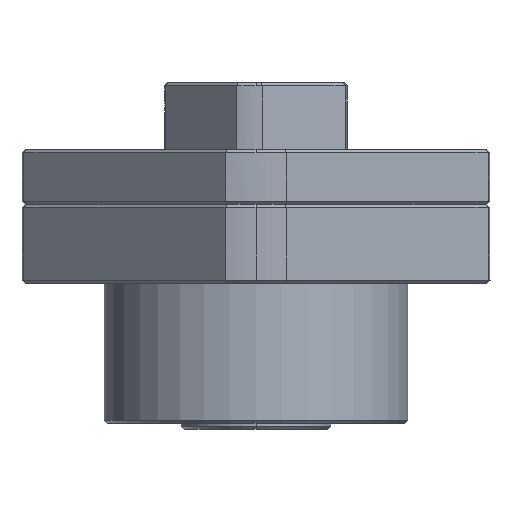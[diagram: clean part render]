
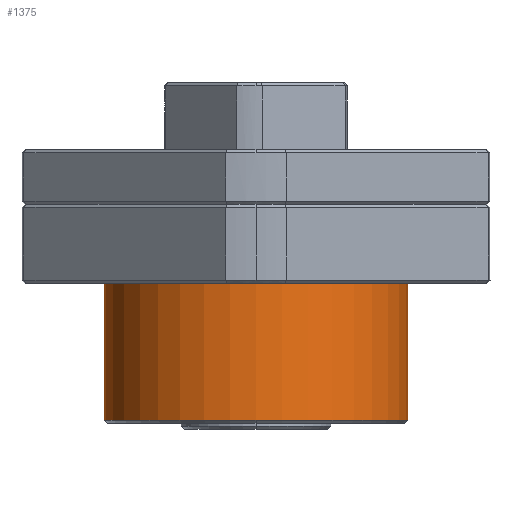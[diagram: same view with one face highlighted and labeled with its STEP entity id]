
A CAD part, left-side view. The second image highlights one B-rep face of the part: STEP entity #1375.
In plain terms, the highlighted cylindrical face has radius 25 mm (diameter 50 mm), a partial arc.
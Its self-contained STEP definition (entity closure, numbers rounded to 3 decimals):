
#280 = LINE ( 'NONE', #13053, #8993 ) ;
#723 = VERTEX_POINT ( 'NONE', #1551 ) ;
#818 = CIRCLE ( 'NONE', #5929, 25. ) ;
#1375 = ADVANCED_FACE ( 'NONE', ( #11953 ), #11579, .T. ) ;
#1551 = CARTESIAN_POINT ( 'NONE',  ( 1.686, -18.435, 5. ) ) ;
#1565 = DIRECTION ( 'NONE',  ( 0., 1., 0. ) ) ;
#1808 = LINE ( 'NONE', #5100, #2354 ) ;
#2194 = ORIENTED_EDGE ( 'NONE', *, *, #10286, .F. ) ;
#2206 = CARTESIAN_POINT ( 'NONE',  ( 1.686, 31.565, -17.5 ) ) ;
#2354 = VECTOR ( 'NONE', #10080, 1000. ) ;
#2507 = ORIENTED_EDGE ( 'NONE', *, *, #14284, .T. ) ;
#2608 = CIRCLE ( 'NONE', #3379, 25. ) ;
#2959 = CARTESIAN_POINT ( 'NONE',  ( 1.686, 6.565, -17.5 ) ) ;
#3379 = AXIS2_PLACEMENT_3D ( 'NONE', #2959, #6375, #11195 ) ;
#3801 = CARTESIAN_POINT ( 'NONE',  ( 1.686, 6.565, 5. ) ) ;
#4117 = EDGE_CURVE ( 'NONE', #8139, #5886, #13258, .T. ) ;
#4190 = EDGE_CURVE ( 'NONE', #723, #5886, #280, .T. ) ;
#5100 = CARTESIAN_POINT ( 'NONE',  ( 1.686, 31.565, 5. ) ) ;
#5101 = CARTESIAN_POINT ( 'NONE',  ( 1.686, 6.565, 5. ) ) ;
#5886 = VERTEX_POINT ( 'NONE', #10591 ) ;
#5929 = AXIS2_PLACEMENT_3D ( 'NONE', #3801, #11968, #7265 ) ;
#6375 = DIRECTION ( 'NONE',  ( 0., 0., 1. ) ) ;
#7265 = DIRECTION ( 'NONE',  ( 0., 1., 0. ) ) ;
#7390 = AXIS2_PLACEMENT_3D ( 'NONE', #5101, #7465, #1565 ) ;
#7465 = DIRECTION ( 'NONE',  ( 0., 0., -1. ) ) ;
#8045 = ORIENTED_EDGE ( 'NONE', *, *, #4117, .T. ) ;
#8139 = VERTEX_POINT ( 'NONE', #9542 ) ;
#8199 = AXIS2_PLACEMENT_3D ( 'NONE', #10626, #11959, #13000 ) ;
#8327 = DIRECTION ( 'NONE',  ( 0., 0., -1. ) ) ;
#8993 = VECTOR ( 'NONE', #8327, 1000. ) ;
#9542 = CARTESIAN_POINT ( 'NONE',  ( -23.314, 6.565, -17.5 ) ) ;
#10080 = DIRECTION ( 'NONE',  ( 0., 0., -1. ) ) ;
#10206 = VERTEX_POINT ( 'NONE', #2206 ) ;
#10286 = EDGE_CURVE ( 'NONE', #13366, #723, #818, .T. ) ;
#10591 = CARTESIAN_POINT ( 'NONE',  ( 1.686, -18.435, -17.5 ) ) ;
#10626 = CARTESIAN_POINT ( 'NONE',  ( 1.686, 6.565, -17.5 ) ) ;
#11195 = DIRECTION ( 'NONE',  ( 0., 1., 0. ) ) ;
#11579 = CYLINDRICAL_SURFACE ( 'NONE', #7390, 25. ) ;
#11953 = FACE_OUTER_BOUND ( 'NONE', #15132, .T. ) ;
#11959 = DIRECTION ( 'NONE',  ( 0., 0., 1. ) ) ;
#11968 = DIRECTION ( 'NONE',  ( 0., 0., 1. ) ) ;
#12502 = CARTESIAN_POINT ( 'NONE',  ( 1.686, 31.565, 5. ) ) ;
#12862 = EDGE_CURVE ( 'NONE', #10206, #8139, #2608, .T. ) ;
#13000 = DIRECTION ( 'NONE',  ( 0., 1., 0. ) ) ;
#13053 = CARTESIAN_POINT ( 'NONE',  ( 1.686, -18.435, 5. ) ) ;
#13258 = CIRCLE ( 'NONE', #8199, 25. ) ;
#13366 = VERTEX_POINT ( 'NONE', #12502 ) ;
#13562 = ORIENTED_EDGE ( 'NONE', *, *, #12862, .T. ) ;
#14284 = EDGE_CURVE ( 'NONE', #13366, #10206, #1808, .T. ) ;
#15130 = ORIENTED_EDGE ( 'NONE', *, *, #4190, .F. ) ;
#15132 = EDGE_LOOP ( 'NONE', ( #15130, #2194, #2507, #13562, #8045 ) ) ;
